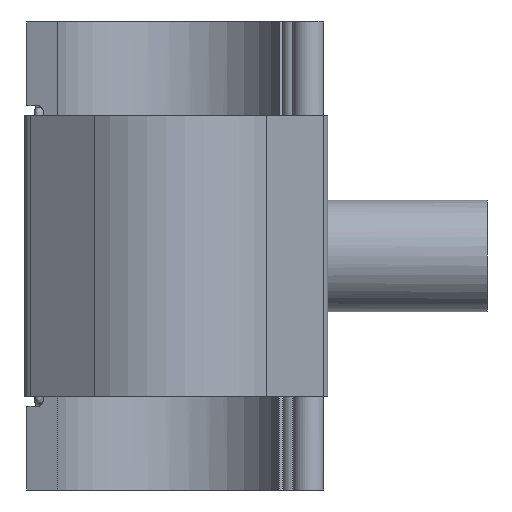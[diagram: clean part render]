
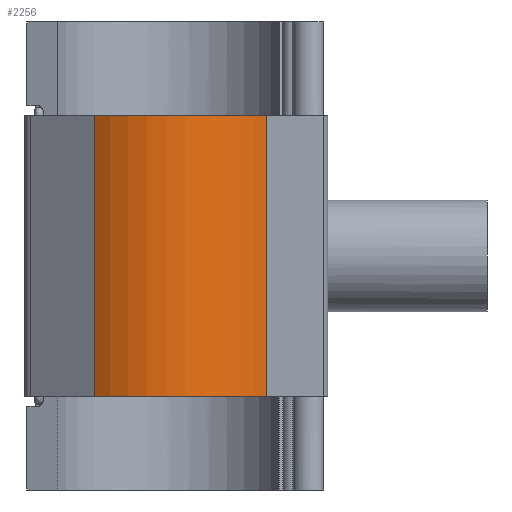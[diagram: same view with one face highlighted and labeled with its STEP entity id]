
A CAD part, front view. The second image highlights one B-rep face of the part: STEP entity #2256.
In plain terms, the highlighted cylindrical face has radius 45.681 mm (diameter 91.361 mm), a partial arc.
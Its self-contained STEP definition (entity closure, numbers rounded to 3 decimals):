
#216=FACE_OUTER_BOUND('',#351,.T.);
#351=EDGE_LOOP('',(#1991,#1992,#1993,#1994));
#447=CIRCLE('',#2420,45.681);
#453=CIRCLE('',#2427,45.681);
#703=LINE('',#4161,#891);
#708=LINE('',#4169,#896);
#891=VECTOR('',#3103,10.);
#896=VECTOR('',#3114,10.);
#1022=VERTEX_POINT('',#3846);
#1023=VERTEX_POINT('',#3848);
#1029=VERTEX_POINT('',#3865);
#1030=VERTEX_POINT('',#3867);
#1275=EDGE_CURVE('',#1022,#1023,#447,.T.);
#1286=EDGE_CURVE('',#1029,#1030,#453,.T.);
#1403=EDGE_CURVE('',#1029,#1023,#703,.T.);
#1408=EDGE_CURVE('',#1022,#1030,#708,.T.);
#1991=ORIENTED_EDGE('',*,*,#1408,.T.);
#1992=ORIENTED_EDGE('',*,*,#1286,.F.);
#1993=ORIENTED_EDGE('',*,*,#1403,.T.);
#1994=ORIENTED_EDGE('',*,*,#1275,.F.);
#2144=CYLINDRICAL_SURFACE('',#2500,45.681);
#2256=ADVANCED_FACE('',(#216),#2144,.T.);
#2420=AXIS2_PLACEMENT_3D('',#3849,#2862,#2863);
#2427=AXIS2_PLACEMENT_3D('',#3868,#2881,#2882);
#2500=AXIS2_PLACEMENT_3D('',#4170,#3115,#3116);
#2862=DIRECTION('center_axis',(0.,0.,-1.));
#2863=DIRECTION('ref_axis',(0.611,0.791,0.));
#2881=DIRECTION('center_axis',(0.,0.,1.));
#2882=DIRECTION('ref_axis',(0.611,0.791,0.));
#3103=DIRECTION('',(0.,0.,-1.));
#3114=DIRECTION('',(0.,0.,1.));
#3115=DIRECTION('center_axis',(0.,0.,1.));
#3116=DIRECTION('ref_axis',(0.611,0.791,0.));
#3846=CARTESIAN_POINT('',(36.82,-27.036,-52.807));
#3848=CARTESIAN_POINT('',(-27.932,-36.145,-52.807));
#3849=CARTESIAN_POINT('Origin',(0.,0.,
-52.807));
#3865=CARTESIAN_POINT('',(-27.932,-36.145,52.807));
#3867=CARTESIAN_POINT('',(36.82,-27.036,52.807));
#3868=CARTESIAN_POINT('Origin',(0.,0.,
52.807));
#4161=CARTESIAN_POINT('',(-27.932,-36.145,0.));
#4169=CARTESIAN_POINT('',(36.82,-27.036,0.));
#4170=CARTESIAN_POINT('Origin',(0.,0.,
0.));
